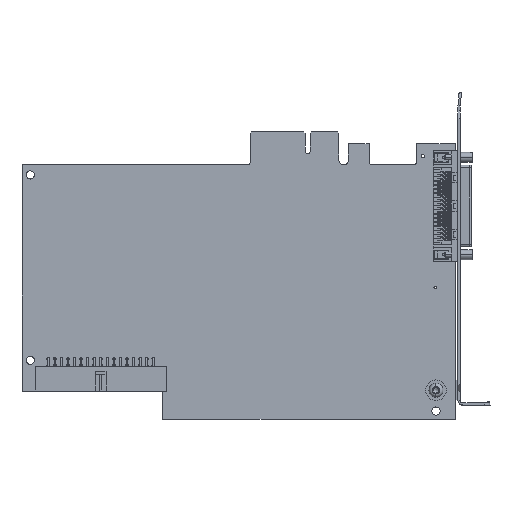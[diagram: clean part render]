
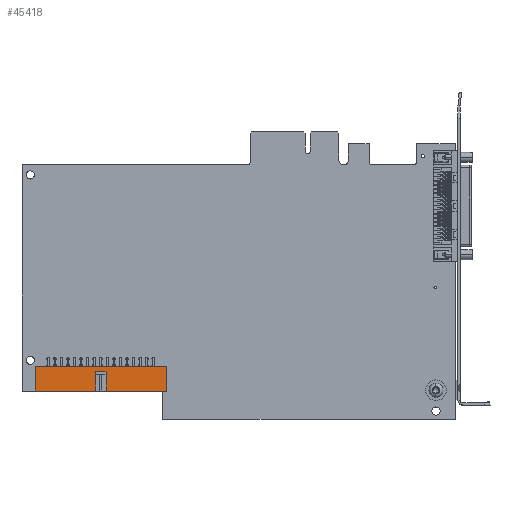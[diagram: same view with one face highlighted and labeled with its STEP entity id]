
A CAD part, top view. The second image highlights one B-rep face of the part: STEP entity #45418.
In plain terms, the highlighted planar face has unit normal (0, 0, 1).
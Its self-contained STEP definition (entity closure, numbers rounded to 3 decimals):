
#7789=DIRECTION('',(1.,0.,0.));
#7790=VECTOR('',#7789,23.368);
#7791=CARTESIAN_POINT('',(-162.56,-95.733,10.224));
#7792=LINE('',#7791,#7790);
#7821=DIRECTION('',(1.,0.,0.));
#7822=VECTOR('',#7821,23.368);
#7823=CARTESIAN_POINT('',(-135.128,-95.733,10.224));
#7824=LINE('',#7823,#7822);
#7841=DIRECTION('',(1.,0.,0.));
#7842=VECTOR('',#7841,50.8);
#7843=CARTESIAN_POINT('',(-162.56,-86.335,10.224));
#7844=LINE('',#7843,#7842);
#8393=DIRECTION('',(0.,1.,0.));
#8394=VECTOR('',#8393,9.398);
#8395=CARTESIAN_POINT('',(-111.76,-95.733,10.224));
#8396=LINE('',#8395,#8394);
#8397=DIRECTION('',(0.,1.,0.));
#8398=VECTOR('',#8397,7.366);
#8399=CARTESIAN_POINT('',(-135.128,-95.733,10.224));
#8400=LINE('',#8399,#8398);
#8401=DIRECTION('',(-1.,0.,0.));
#8402=VECTOR('',#8401,4.064);
#8403=CARTESIAN_POINT('',(-135.128,-88.367,10.224));
#8404=LINE('',#8403,#8402);
#8405=DIRECTION('',(0.,1.,0.));
#8406=VECTOR('',#8405,7.366);
#8407=CARTESIAN_POINT('',(-139.192,-95.733,10.224));
#8408=LINE('',#8407,#8406);
#8409=DIRECTION('',(0.,1.,0.));
#8410=VECTOR('',#8409,9.398);
#8411=CARTESIAN_POINT('',(-162.56,-95.733,10.224));
#8412=LINE('',#8411,#8410);
#29782=CARTESIAN_POINT('',(-162.56,-86.335,10.224));
#29783=CARTESIAN_POINT('',(-111.76,-86.335,10.224));
#29784=VERTEX_POINT('',#29782);
#29785=VERTEX_POINT('',#29783);
#29786=CARTESIAN_POINT('',(-162.56,-95.733,10.224));
#29787=VERTEX_POINT('',#29786);
#29788=CARTESIAN_POINT('',(-111.76,-95.733,10.224));
#29789=VERTEX_POINT('',#29788);
#30691=CARTESIAN_POINT('',(-135.128,-95.733,10.224));
#30693=VERTEX_POINT('',#30691);
#30695=CARTESIAN_POINT('',(-139.192,-95.733,10.224));
#30697=VERTEX_POINT('',#30695);
#30698=CARTESIAN_POINT('',(-135.128,-88.367,10.224));
#30699=VERTEX_POINT('',#30698);
#30700=CARTESIAN_POINT('',(-139.192,-88.367,10.224));
#30701=VERTEX_POINT('',#30700);
#45400=CARTESIAN_POINT('',(-162.56,-95.733,10.224));
#45401=DIRECTION('',(0.,0.,1.));
#45402=DIRECTION('',(1.,0.,0.));
#45403=AXIS2_PLACEMENT_3D('',#45400,#45401,#45402);
#45404=PLANE('',#45403);
#45406=ORIENTED_EDGE('',*,*,#45405,.T.);
#45408=ORIENTED_EDGE('',*,*,#45407,.T.);
#45410=ORIENTED_EDGE('',*,*,#45409,.F.);
#45411=ORIENTED_EDGE('',*,*,#44946,.F.);
#45412=ORIENTED_EDGE('',*,*,#44989,.T.);
#45413=ORIENTED_EDGE('',*,*,#45009,.T.);
#45414=ORIENTED_EDGE('',*,*,#45387,.F.);
#45415=ORIENTED_EDGE('',*,*,#44962,.F.);
#45416=EDGE_LOOP('',(#45406,#45408,#45410,#45411,#45412,#45413,#45414,#45415));
#45417=FACE_OUTER_BOUND('',#45416,.F.);
#44946=EDGE_CURVE('',#29787,#30697,#7792,.T.);
#44962=EDGE_CURVE('',#30693,#29789,#7824,.T.);
#44989=EDGE_CURVE('',#29787,#29784,#8412,.T.);
#45009=EDGE_CURVE('',#29784,#29785,#7844,.T.);
#45387=EDGE_CURVE('',#29789,#29785,#8396,.T.);
#45405=EDGE_CURVE('',#30693,#30699,#8400,.T.);
#45407=EDGE_CURVE('',#30699,#30701,#8404,.T.);
#45409=EDGE_CURVE('',#30697,#30701,#8408,.T.);
#45418=ADVANCED_FACE('',(#45417),#45404,.T.);
